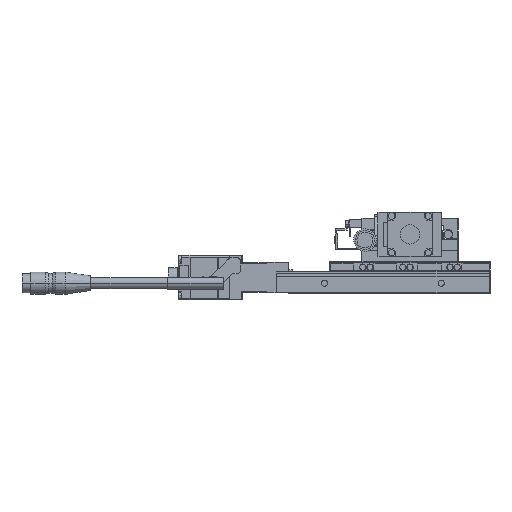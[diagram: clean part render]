
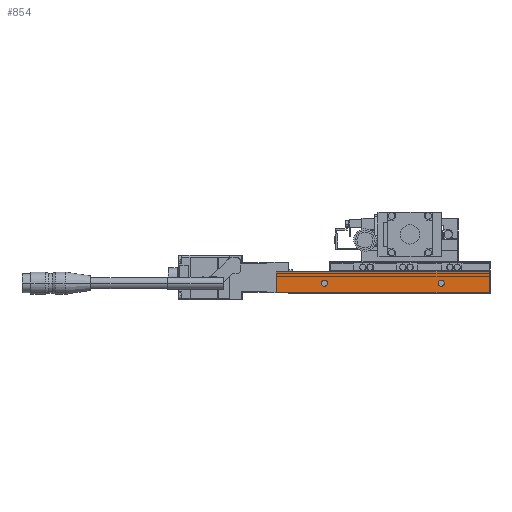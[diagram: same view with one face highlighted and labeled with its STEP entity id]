
A CAD part, front view. The second image highlights one B-rep face of the part: STEP entity #854.
In plain terms, the highlighted planar face has unit normal (0, -1, 0).
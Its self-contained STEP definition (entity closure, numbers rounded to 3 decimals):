
#854=ADVANCED_FACE('',(#2249,#2250,#2251),#2252,.F.);
#2249=FACE_BOUND('',#4737,.T.);
#2250=FACE_OUTER_BOUND('',#4738,.T.);
#2251=FACE_BOUND('',#4739,.T.);
#2252=PLANE('',#4740);
#4737=EDGE_LOOP('',(#8375,#8376));
#4738=EDGE_LOOP('',(#8377,#8378,#8379,#8380));
#4739=EDGE_LOOP('',(#8381,#8382));
#4740=AXIS2_PLACEMENT_3D('',#8383,#8384,#8385);
#8375=ORIENTED_EDGE('',*,*,#16499,.F.);
#8376=ORIENTED_EDGE('',*,*,#16522,.F.);
#8377=ORIENTED_EDGE('',*,*,#16523,.T.);
#8378=ORIENTED_EDGE('',*,*,#16524,.F.);
#8379=ORIENTED_EDGE('',*,*,#16525,.F.);
#8380=ORIENTED_EDGE('',*,*,#16526,.T.);
#8381=ORIENTED_EDGE('',*,*,#16495,.F.);
#8382=ORIENTED_EDGE('',*,*,#16527,.F.);
#8383=CARTESIAN_POINT('',(49.5,-46.8,13.5));
#8384=DIRECTION('',(0.,1.0,0.));
#8385=DIRECTION('',(0.,0.,-1.0));
#16495=EDGE_CURVE('',#19668,#19664,#19670,.F.);
#16499=EDGE_CURVE('',#19676,#19672,#19678,.F.);
#16522=EDGE_CURVE('',#19672,#19676,#19719,.F.);
#16523=EDGE_CURVE('',#19720,#19721,#19722,.T.);
#16524=EDGE_CURVE('',#19723,#19721,#19724,.T.);
#16525=EDGE_CURVE('',#19725,#19723,#19726,.T.);
#16526=EDGE_CURVE('',#19725,#19720,#19727,.T.);
#16527=EDGE_CURVE('',#19664,#19668,#19728,.F.);
#19664=VERTEX_POINT('',#24664);
#19668=VERTEX_POINT('',#24669);
#19670=CIRCLE('',#24672,1.95);
#19672=VERTEX_POINT('',#24674);
#19676=VERTEX_POINT('',#24679);
#19678=CIRCLE('',#24682,1.95);
#19719=CIRCLE('',#24737,1.95);
#19720=VERTEX_POINT('',#24738);
#19721=VERTEX_POINT('',#24739);
#19722=LINE('',#24740,#24741);
#19723=VERTEX_POINT('',#24742);
#19724=LINE('',#24743,#24744);
#19725=VERTEX_POINT('',#24745);
#19726=LINE('',#24746,#24747);
#19727=LINE('',#24748,#24749);
#19728=CIRCLE('',#24750,1.95);
#24664=CARTESIAN_POINT('',(21.45,-46.8,6.5));
#24669=CARTESIAN_POINT('',(17.55,-46.8,6.5));
#24672=AXIS2_PLACEMENT_3D('',#31121,#31122,#31123);
#24674=CARTESIAN_POINT('',(-51.55,-46.8,6.5));
#24679=CARTESIAN_POINT('',(-55.45,-46.8,6.5));
#24682=AXIS2_PLACEMENT_3D('',#31129,#31130,#31131);
#24737=AXIS2_PLACEMENT_3D('',#31170,#31171,#31172);
#24738=CARTESIAN_POINT('',(-83.5,-46.8,13.5));
#24739=CARTESIAN_POINT('',(-83.5,-46.8,0.5));
#24740=CARTESIAN_POINT('',(-83.5,-46.8,13.5));
#24741=VECTOR('',#31173,1000.0);
#24742=CARTESIAN_POINT('',(49.5,-46.8,0.5));
#24743=CARTESIAN_POINT('',(49.5,-46.8,0.5));
#24744=VECTOR('',#31174,1000.0);
#24745=CARTESIAN_POINT('',(49.5,-46.8,13.5));
#24746=CARTESIAN_POINT('',(49.5,-46.8,13.5));
#24747=VECTOR('',#31175,1000.0);
#24748=CARTESIAN_POINT('',(49.5,-46.8,13.5));
#24749=VECTOR('',#31176,1000.0);
#24750=AXIS2_PLACEMENT_3D('',#31177,#31178,#31179);
#31121=CARTESIAN_POINT('',(19.5,-46.8,6.5));
#31122=DIRECTION('',(0.,1.0,0.));
#31123=DIRECTION('',(-1.0,0.,0.));
#31129=CARTESIAN_POINT('',(-53.5,-46.8,6.5));
#31130=DIRECTION('',(0.,1.0,0.));
#31131=DIRECTION('',(-1.0,0.,0.));
#31170=CARTESIAN_POINT('',(-53.5,-46.8,6.5));
#31171=DIRECTION('',(0.,1.0,0.));
#31172=DIRECTION('',(-1.0,0.,0.));
#31173=DIRECTION('',(0.,0.,-1.0));
#31174=DIRECTION('',(-1.0,0.,0.));
#31175=DIRECTION('',(0.,0.,-1.0));
#31176=DIRECTION('',(-1.0,0.,0.));
#31177=CARTESIAN_POINT('',(19.5,-46.8,6.5));
#31178=DIRECTION('',(0.,1.0,0.));
#31179=DIRECTION('',(-1.0,0.,0.));
